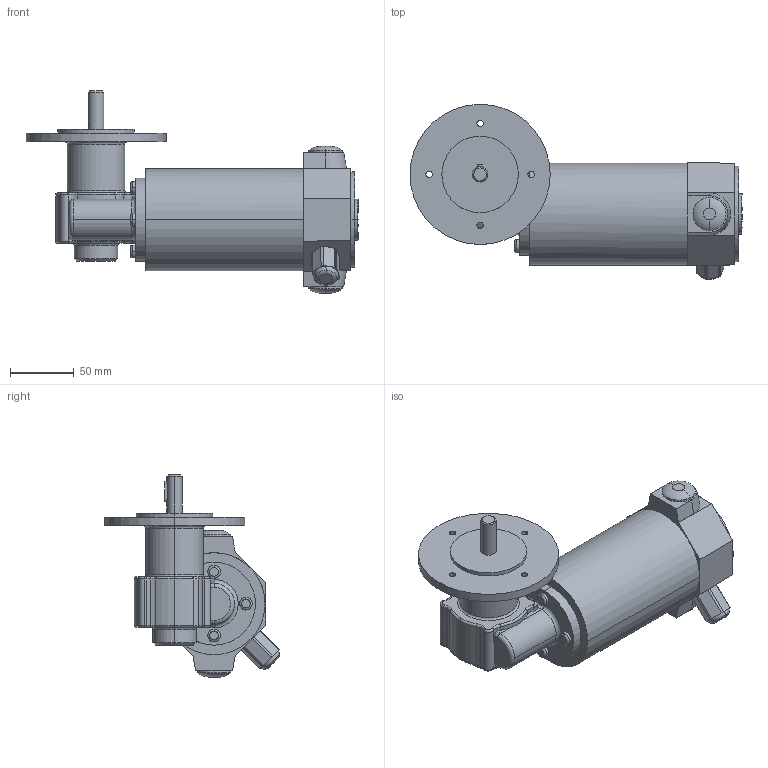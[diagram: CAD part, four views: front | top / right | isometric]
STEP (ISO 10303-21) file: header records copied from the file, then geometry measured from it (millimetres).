
FILE_DESCRIPTION(('OneSpaceDesigner STEP Export'),'2;1');
FILE_NAME('EPG13_GF12-10.stp','2008-07-02T13:22:58',(''),(''),'OneSpace Designer STEP processor (Jan. 2003) for AP214(CD)(Solid Model)','OneSpace Designer 12.01D 09-Jul-2004 (C) CoCreate Software GmbH','');
FILE_SCHEMA(('AUTOMOTIVE_DESIGN_CC2 {1 2 10303 214 -1 1 5 1}'));
Length unit declared in the file: millimetre
Products named in the file (2): EPG13_GF12-10
Assembly tree (1 placements, depth 2):
  EPG13_GF12-10
    EPG13_GF12-10
Bounding box: 260.5 x 137.39 x 158.5 mm (x, y, z)
Volume: 1211964.6 mm3; surface area: 100663.2 mm2
Topology: 1 solids, 1 shells, 217 faces, 523 edges, 325 vertices
Faces by surface type: cylinder 87, torus 74, plane 50, cone 4, bspline 2
Entity records: 8918 total; most frequent: CARTESIAN_POINT 4267, ORIENTED_EDGE 1046, DIRECTION 867, EDGE_CURVE 523, AXIS2_PLACEMENT_3D 357, VERTEX_POINT 325, EDGE_LOOP 242, CIRCLE 217
